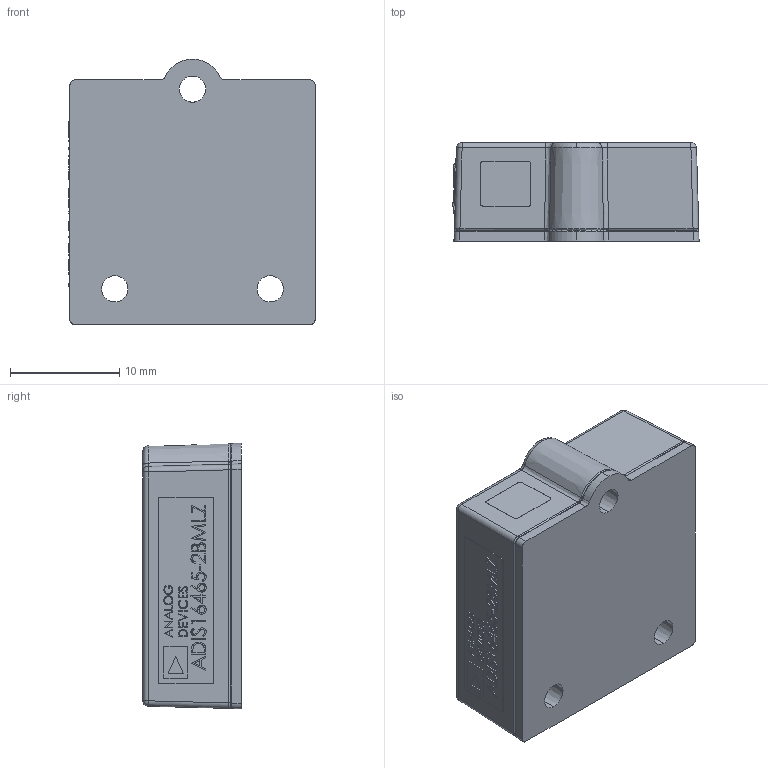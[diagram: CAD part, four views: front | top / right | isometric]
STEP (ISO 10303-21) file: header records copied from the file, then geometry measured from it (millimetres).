
FILE_DESCRIPTION (( 'STEP AP214' ), '1' );
FILE_NAME ('ADIS16465-2BMLZ.STEP', '2017-11-30T20:44:54', ( '' ), ( '' ), 'SwSTEP 2.0', 'SolidWorks 2016', '' );
FILE_SCHEMA (( 'AUTOMOTIVE_DESIGN' ));
Length unit declared in the file: millimetre
Products named in the file (5): ADIS16460_Base rev4_HRB2_No Skirt_CDS_3-17-15; ADIS16465-2BMLZ; FTMH-Conn-Stacker_14Pin; ADIS16460_Lid Rev5_HRB2_No-Skirt_CDS_3-17-16; ADiS16460 Assembly_HRB2_CDS_3-17-16
Assembly tree (4 placements, depth 3):
  ADIS16465-2BMLZ
    ADIS16460_Base rev4_HRB2_No Skirt_CDS_3-17-15
    ADiS16460 Assembly_HRB2_CDS_3-17-16
      FTMH-Conn-Stacker_14Pin
    ADIS16460_Lid Rev5_HRB2_No-Skirt_CDS_3-17-16
Bounding box: 22.49 x 9 x 24.3 mm (x, y, z)
Volume: 2281.6 mm3; surface area: 4100.3 mm2
Topology: 32 solids, 34 shells, 1491 faces, 4016 edges, 2593 vertices
Faces by surface type: plane 960, bspline 318, cylinder 119, torus 38, cone 38, sphere 18
Entity records: 74465 total; most frequent: CARTESIAN_POINT 25753, ORIENTED_EDGE 7740, DIRECTION 6043, EDGE_CURVE 3996, VECTOR 2913, LINE 2913, VERTEX_POINT 2589, EDGE_LOOP 1635
